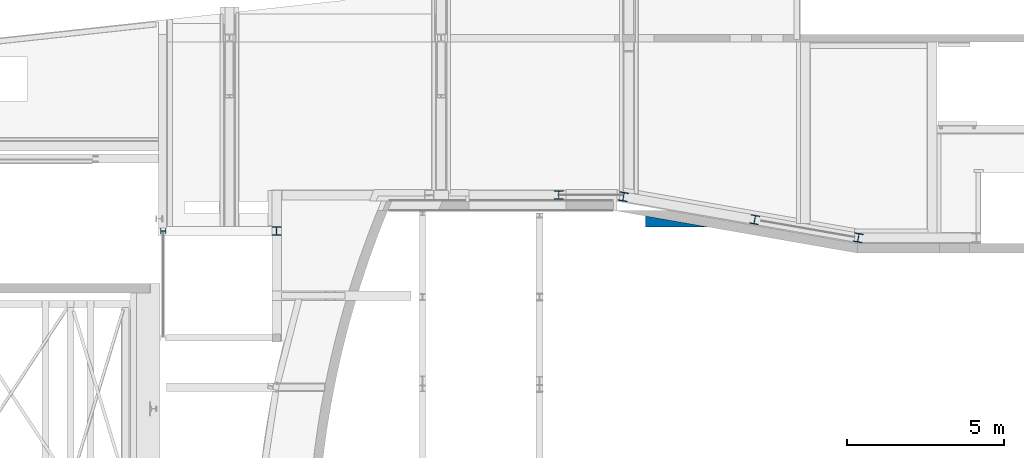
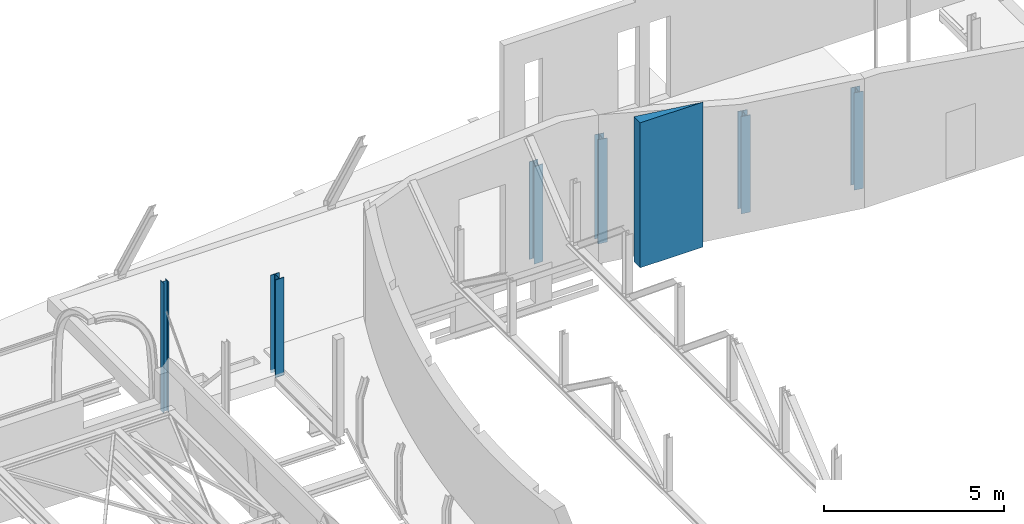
# One storey, part 5 of 38: 7 columns.
"""IFC2X3 building model written with IfcOpenShell, lengths in millimetres."""

from ifc_helpers import new_model, entity, si_unit, converted_unit, derived_unit, direction, frame, frame_2d, origin, place, context, subcontext, project, spatial, polyline, circle_curve, parameter, trimmed, segment, composite_curve, i_section, outline, extrude, source, transform, mapped, material, type_object, type_shapes, element, save


model = new_model("IFC2X3")

# Units and contexts
model_context = context("Model", 3, precision=0.01, world=origin(), true_north=direction((6.12303176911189e-17, 1.0)))
body_context = subcontext(model_context, "Body", "Model", "MODEL_VIEW")
ifc_project = project(units=[si_unit("LENGTHUNIT", "METRE", prefix="MILLI"), si_unit("AREAUNIT", "SQUARE_METRE", prefix="MILLI"), si_unit("VOLUMEUNIT", "CUBIC_METRE"), converted_unit("PLANEANGLEUNIT", "DEGREE", entity("IfcRatioMeasure", 0.0174532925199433), si_unit("PLANEANGLEUNIT", "RADIAN"), dimensions=[0, 0, 0, 0, 0, 0, 0]), si_unit("MASSUNIT", "GRAM", prefix="KILO"), derived_unit("MASSDENSITYUNIT", [(si_unit("MASSUNIT", "GRAM", prefix="KILO"), 1), (si_unit("LENGTHUNIT", "METRE"), -3)]), derived_unit("MOMENTOFINERTIAUNIT", [(si_unit("LENGTHUNIT", "METRE"), 4)]), si_unit("TIMEUNIT", "SECOND"), si_unit("FREQUENCYUNIT", "HERTZ"), si_unit("THERMODYNAMICTEMPERATUREUNIT", "DEGREE_CELSIUS"), derived_unit("THERMALTRANSMITTANCEUNIT", [(si_unit("MASSUNIT", "GRAM", prefix="KILO"), 1), (si_unit("THERMODYNAMICTEMPERATUREUNIT", "KELVIN"), -1), (si_unit("TIMEUNIT", "SECOND"), -3)]), derived_unit("VOLUMETRICFLOWRATEUNIT", [(si_unit("LENGTHUNIT", "METRE"), 3), (si_unit("TIMEUNIT", "SECOND"), -1)]), si_unit("ELECTRICCURRENTUNIT", "AMPERE"), si_unit("ELECTRICVOLTAGEUNIT", "VOLT"), si_unit("POWERUNIT", "WATT"), si_unit("FORCEUNIT", "NEWTON", prefix="KILO"), si_unit("ILLUMINANCEUNIT", "LUX"), si_unit("LUMINOUSFLUXUNIT", "LUMEN"), si_unit("LUMINOUSINTENSITYUNIT", "CANDELA"), derived_unit("USERDEFINED", [(si_unit("MASSUNIT", "GRAM", prefix="KILO"), -1), (si_unit("LENGTHUNIT", "METRE"), -2), (si_unit("TIMEUNIT", "SECOND"), 3), (si_unit("LUMINOUSFLUXUNIT", "LUMEN"), 1)]), derived_unit("LINEARVELOCITYUNIT", [(si_unit("LENGTHUNIT", "METRE"), 1), (si_unit("TIMEUNIT", "SECOND"), -1)]), si_unit("PRESSUREUNIT", "PASCAL"), derived_unit("USERDEFINED", [(si_unit("LENGTHUNIT", "METRE"), -2), (si_unit("MASSUNIT", "GRAM", prefix="KILO"), 1), (si_unit("TIMEUNIT", "SECOND"), -2)]), derived_unit("LINEARFORCEUNIT", [(si_unit("MASSUNIT", "GRAM", prefix="KILO"), 1), (si_unit("LENGTHUNIT", "METRE"), 1), (si_unit("TIMEUNIT", "SECOND"), -2), (si_unit("LENGTHUNIT", "METRE"), -1)]), derived_unit("PLANARFORCEUNIT", [(si_unit("MASSUNIT", "GRAM", prefix="KILO"), 1), (si_unit("LENGTHUNIT", "METRE"), 1), (si_unit("TIMEUNIT", "SECOND"), -2), (si_unit("LENGTHUNIT", "METRE"), -2)])], contexts=[model_context])

# Site, building, storey
site_placement = place(None, origin())
site = spatial("IfcSite", under=ifc_project, at=site_placement, Name="Theater aan de Parade", CompositionType="ELEMENT")
building_placement = place(site_placement, origin())
building = spatial("IfcBuilding", under=site, at=building_placement, Name="Theater aan de Parade", CompositionType="ELEMENT")
storey_placement = place(building_placement, frame((0.0, 0.0, 12480.0)))
storey = spatial("IfcBuildingStorey", under=building, at=storey_placement, Name="03 derde verdieping", CompositionType="ELEMENT", Elevation=12480.0)

# Columns
ifc_material_1 = material(Name="00_PBT_MAT_beton t.p.g.")
column_type_1 = type_object("IfcColumnType", Name="28_PBT_SC_beton_opdikking wand:opdikking wand grote zaal_bestaand", PredefinedType="COLUMN", material=ifc_material_1)
shared_shape_1 = source(origin(), body_context, "Body", "SweptSolid", [
    extrude(outline(polyline([(-235.366666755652, -672.476190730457), (117.683333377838, -672.476190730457), (117.683333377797, 1344.95238146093), (-235.366666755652, -672.476190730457)])), frame((53382.4761907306, 43492.6333332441, 11910.0), z_axis=(0.0, 0.0, 1.0), x_axis=(0.0, -1.0, 0.0)), (0.0, 0.0, 1.0), 4930.00000000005),
])
type_shapes(column_type_1, [shared_shape_1])
column_1_placement = place(storey_placement, frame((0.0, 0.0, -12480.0)))
element("IfcColumn", 1, at=column_1_placement, inside=storey, type_object=column_type_1, material=ifc_material_1, Name="28_PBT_SC_beton_opdikking wand:opdikking wand grote zaal_bestaand", ObjectType="28_PBT_SC_beton_opdikking wand:opdikking wand grote zaal_bestaand", context=body_context, shape_type="MappedRepresentation", body=[
    mapped(shared_shape_1, transform((0.0, 0.0, 0.0), scale=1.0)),
])
ifc_material_2 = material(Name="00_PBT_MAT_staal_S355")
column_type_2 = type_object("IfcColumnType", Name="28_PBT_SC_staal_H-profiel:S355_HE280B", PredefinedType="COLUMN", material=ifc_material_2)
shared_shape_2 = source(origin(), body_context, "Body", "SweptSolid", [
    extrude(outline(composite_curve([segment(polyline([(122.0, -140.0), (140.0, -140.0)]), True, "CONTINUOUS"), segment(polyline([(140.0, -140.0), (140.0, 140.0)]), True, "CONTINUOUS"), segment(polyline([(140.0, 140.0), (122.0, 140.0)]), True, "CONTINUOUS"), segment(polyline([(122.0, 140.0), (122.0, 29.2499999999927)]), True, "CONTINUOUS"), segment(trimmed(circle_curve(frame_2d((98.0, 29.2500000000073), x_axis=(1.0, 0.0)), 24.0000000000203), [parameter(270.000000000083)], [parameter(0.0)], True, "PARAMETER"), False, "CONTINUOUS"), segment(polyline([(98.0, 5.24999999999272), (-98.0, 5.24999999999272)]), True, "CONTINUOUS"), segment(trimmed(circle_curve(frame_2d((-98.0, 29.2500000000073), x_axis=(0.0, -1.0)), 24.0000000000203), [parameter(270.000000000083)], [parameter(0.0)], True, "PARAMETER"), False, "CONTINUOUS"), segment(polyline([(-122.0, 29.25), (-122.0, 140.0)]), True, "CONTINUOUS"), segment(polyline([(-122.0, 140.0), (-140.0, 140.0)]), True, "CONTINUOUS"), segment(polyline([(-140.0, 140.0), (-140.0, -140.0)]), True, "CONTINUOUS"), segment(polyline([(-140.0, -140.0), (-122.0, -140.0)]), True, "CONTINUOUS"), segment(polyline([(-122.0, -140.0), (-122.0, -29.2500000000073)]), True, "CONTINUOUS"), segment(trimmed(circle_curve(frame_2d((-98.0, -29.2500000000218), x_axis=(-1.0, 0.0)), 24.0000000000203), [parameter(270.000000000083)], [parameter(0.0)], True, "PARAMETER"), False, "CONTINUOUS"), segment(polyline([(-98.0, -5.25), (98.0, -5.25)]), True, "CONTINUOUS"), segment(trimmed(circle_curve(frame_2d((98.0, -29.2500000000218), x_axis=(0.0, 1.0)), 24.0000000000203), [parameter(270.000000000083)], [parameter(0.0)], True, "PARAMETER"), False, "CONTINUOUS"), segment(polyline([(122.0, -29.2500000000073), (122.0, -140.0)]), True, "CONTINUOUS")], self_intersect=False)), frame((49946.4713059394, 44395.0, 12515.0), z_axis=(0.0, 0.0, 1.0), x_axis=(0.0, -1.0, 0.0)), (0.0, 0.0, 1.0), 3319.99999999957),
])
type_shapes(column_type_2, [shared_shape_2])
column_2_placement = place(storey_placement, frame((0.0, 0.0, -12480.0)))
element("IfcColumn", 2, at=column_2_placement, inside=storey, type_object=column_type_2, material=ifc_material_2, Name="28_PBT_SC_staal_H-profiel:S355_HE280B", ObjectType="28_PBT_SC_staal_H-profiel:S355_HE280B", context=body_context, shape_type="MappedRepresentation", body=[
    mapped(shared_shape_2, transform((0.0, 0.0, 0.0), scale=1.0)),
])
column_type_3 = type_object("IfcColumnType", Name="28_PBT_SC_staal_H-profiel:S355_HE280B", PredefinedType="COLUMN", material=ifc_material_2)
shared_shape_3 = source(origin(), body_context, "Body", "SweptSolid", [
    extrude(outline(composite_curve([segment(polyline([(122.0, -140.0), (140.0, -140.0)]), True, "CONTINUOUS"), segment(polyline([(140.0, -140.0), (140.0, 140.0)]), True, "CONTINUOUS"), segment(polyline([(140.0, 140.0), (122.0, 140.0)]), True, "CONTINUOUS"), segment(polyline([(122.0, 140.0), (122.0, 29.2500000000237)]), True, "CONTINUOUS"), segment(trimmed(circle_curve(frame_2d((98.0, 29.2500000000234), x_axis=(1.0, 0.0)), 24.000000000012), [parameter(270.000000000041)], [parameter(0.0)], True, "PARAMETER"), False, "CONTINUOUS"), segment(polyline([(98.0, 5.25000000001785), (-98.0, 5.25000000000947)]), True, "CONTINUOUS"), segment(trimmed(circle_curve(frame_2d((-98.0, 29.2500000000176), x_axis=(0.0, -1.0)), 24.000000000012), [parameter(270.000000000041)], [parameter(0.0)], True, "PARAMETER"), False, "CONTINUOUS"), segment(polyline([(-122.0, 29.2500000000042), (-122.0, 140.0)]), True, "CONTINUOUS"), segment(polyline([(-122.0, 140.0), (-140.0, 140.0)]), True, "CONTINUOUS"), segment(polyline([(-140.0, 140.0), (-140.0, -140.0)]), True, "CONTINUOUS"), segment(polyline([(-140.0, -140.0), (-122.0, -140.0)]), True, "CONTINUOUS"), segment(polyline([(-122.0, -140.0), (-122.0, -29.2500000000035)]), True, "CONTINUOUS"), segment(trimmed(circle_curve(frame_2d((-98.0, -29.2500000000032), x_axis=(-1.0, 0.0)), 24.000000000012), [parameter(270.000000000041)], [parameter(0.0)], True, "PARAMETER"), False, "CONTINUOUS"), segment(polyline([(-98.0, -5.24999999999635), (98.0, -5.24999999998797)]), True, "CONTINUOUS"), segment(trimmed(circle_curve(frame_2d((98.0, -29.2499999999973), x_axis=(0.0, 1.0)), 24.000000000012), [parameter(270.000000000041)], [parameter(0.0)], True, "PARAMETER"), False, "CONTINUOUS"), segment(polyline([(122.0, -29.249999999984), (122.0, -140.0)]), True, "CONTINUOUS")], self_intersect=False)), frame((56185.6044607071, 43612.1397766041, 12505.0), z_axis=(0.0, 0.0, 1.0), x_axis=(0.172380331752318, 0.985030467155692, 0.0)), (0.0, 0.0, 1.0), 3309.99999999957),
])
type_shapes(column_type_3, [shared_shape_3])
column_3_placement = place(storey_placement, frame((0.0, 0.0, -12480.0)))
element("IfcColumn", 3, at=column_3_placement, inside=storey, type_object=column_type_3, material=ifc_material_2, Name="28_PBT_SC_staal_H-profiel:S355_HE280B", ObjectType="28_PBT_SC_staal_H-profiel:S355_HE280B", context=body_context, shape_type="MappedRepresentation", body=[
    mapped(shared_shape_3, transform((0.0, 0.0, 0.0), scale=1.0)),
])
column_type_4 = type_object("IfcColumnType", Name="28_PBT_SC_staal_H-profiel:S355_HE280B", PredefinedType="COLUMN", material=ifc_material_2)
shared_shape_4 = source(origin(), body_context, "Body", "SweptSolid", [
    extrude(outline(composite_curve([segment(polyline([(122.0, -140.0), (140.0, -140.0)]), True, "CONTINUOUS"), segment(polyline([(140.0, -140.0), (140.0, 140.0)]), True, "CONTINUOUS"), segment(polyline([(140.0, 140.0), (122.0, 140.0)]), True, "CONTINUOUS"), segment(polyline([(122.0, 140.0), (122.0, 29.2500000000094)]), True, "CONTINUOUS"), segment(trimmed(circle_curve(frame_2d((98.0, 29.2500000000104), x_axis=(1.0, 0.0)), 24.000000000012), [parameter(270.000000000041)], [parameter(0.0)], True, "PARAMETER"), False, "CONTINUOUS"), segment(polyline([(98.0, 5.25000000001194), (-98.0, 5.24999999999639)]), True, "CONTINUOUS"), segment(trimmed(circle_curve(frame_2d((-98.0, 29.2500000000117), x_axis=(0.0, -1.0)), 24.000000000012), [parameter(270.000000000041)], [parameter(0.0)], True, "PARAMETER"), False, "CONTINUOUS"), segment(polyline([(-122.0, 29.2499999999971), (-122.0, 140.0)]), True, "CONTINUOUS"), segment(polyline([(-122.0, 140.0), (-140.0, 140.0)]), True, "CONTINUOUS"), segment(polyline([(-140.0, 140.0), (-140.0, -140.0)]), True, "CONTINUOUS"), segment(polyline([(-140.0, -140.0), (-122.0, -140.0)]), True, "CONTINUOUS"), segment(polyline([(-122.0, -140.0), (-122.0, -29.2500000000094)]), True, "CONTINUOUS"), segment(trimmed(circle_curve(frame_2d((-98.0, -29.2500000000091), x_axis=(-1.0, 0.0)), 24.000000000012), [parameter(270.000000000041)], [parameter(0.0)], True, "PARAMETER"), False, "CONTINUOUS"), segment(polyline([(-98.0, -5.25000000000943), (98.0, -5.24999999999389)]), True, "CONTINUOUS"), segment(trimmed(circle_curve(frame_2d((98.0, -29.2500000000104), x_axis=(0.0, 1.0)), 24.000000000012), [parameter(270.000000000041)], [parameter(0.0)], True, "PARAMETER"), False, "CONTINUOUS"), segment(polyline([(122.0, -29.2499999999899), (122.0, -140.0)]), True, "CONTINUOUS")], self_intersect=False)), frame((59483.5460413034, 43035.0, 12505.0), z_axis=(0.0, 0.0, 1.0), x_axis=(0.172380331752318, 0.985030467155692, 0.0)), (0.0, 0.0, 1.0), 3309.99999999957),
])
type_shapes(column_type_4, [shared_shape_4])
column_4_placement = place(storey_placement, frame((0.0, 0.0, -12480.0)))
element("IfcColumn", 4, at=column_4_placement, inside=storey, type_object=column_type_4, material=ifc_material_2, Name="28_PBT_SC_staal_H-profiel:S355_HE280B", ObjectType="28_PBT_SC_staal_H-profiel:S355_HE280B", context=body_context, shape_type="MappedRepresentation", body=[
    mapped(shared_shape_4, transform((0.0, 0.0, 0.0), scale=1.0)),
])
column_type_5 = type_object("IfcColumnType", Name="28_PBT_SC_staal_H-profiel:S355_HE280B", PredefinedType="COLUMN", material=ifc_material_2)
shared_shape_5 = source(origin(), body_context, "Body", "SweptSolid", [
    extrude(outline(composite_curve([segment(polyline([(122.0, -140.0), (140.0, -140.0)]), True, "CONTINUOUS"), segment(polyline([(140.0, -140.0), (140.0, 140.0)]), True, "CONTINUOUS"), segment(polyline([(140.0, 140.0), (122.0, 140.0)]), True, "CONTINUOUS"), segment(polyline([(122.0, 140.0), (122.0, 29.2500000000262)]), True, "CONTINUOUS"), segment(trimmed(circle_curve(frame_2d((98.0, 29.250000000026), x_axis=(1.0, 0.0)), 24.000000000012), [parameter(270.000000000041)], [parameter(0.0)], True, "PARAMETER"), False, "CONTINUOUS"), segment(polyline([(98.0, 5.25000000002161), (-98.0, 5.25000000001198)]), True, "CONTINUOUS"), segment(trimmed(circle_curve(frame_2d((-98.0, 29.2500000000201), x_axis=(0.0, -1.0)), 24.000000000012), [parameter(270.000000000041)], [parameter(0.0)], True, "PARAMETER"), False, "CONTINUOUS"), segment(polyline([(-122.0, 29.2500000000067), (-122.0, 140.0)]), True, "CONTINUOUS"), segment(polyline([(-122.0, 140.0), (-140.0, 140.0)]), True, "CONTINUOUS"), segment(polyline([(-140.0, 140.0), (-140.0, -140.0)]), True, "CONTINUOUS"), segment(polyline([(-140.0, -140.0), (-122.0, -140.0)]), True, "CONTINUOUS"), segment(polyline([(-122.0, -140.0), (-122.0, -29.250000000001)]), True, "CONTINUOUS"), segment(trimmed(circle_curve(frame_2d((-98.0, -29.2500000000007), x_axis=(-1.0, 0.0)), 24.000000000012), [parameter(270.000000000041)], [parameter(0.0)], True, "PARAMETER"), False, "CONTINUOUS"), segment(polyline([(-98.0, -5.24999999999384), (98.0, -5.24999999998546)]), True, "CONTINUOUS"), segment(trimmed(circle_curve(frame_2d((98.0, -29.2499999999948), x_axis=(0.0, 1.0)), 24.000000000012), [parameter(270.000000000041)], [parameter(0.0)], True, "PARAMETER"), False, "CONTINUOUS"), segment(polyline([(122.0, -29.2499999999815), (122.0, -140.0)]), True, "CONTINUOUS")], self_intersect=False)), frame((52005.6821149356, 44343.6261871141, 12505.0), z_axis=(0.0, 0.0, 1.0), x_axis=(0.172380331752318, 0.985030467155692, 0.0)), (0.0, 0.0, 1.0), 3539.99999999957),
])
type_shapes(column_type_5, [shared_shape_5])
column_5_placement = place(storey_placement, frame((0.0, 0.0, -12480.0)))
element("IfcColumn", 5, at=column_5_placement, inside=storey, type_object=column_type_5, material=ifc_material_2, Name="28_PBT_SC_staal_H-profiel:S355_HE280B", ObjectType="28_PBT_SC_staal_H-profiel:S355_HE280B", context=body_context, shape_type="MappedRepresentation", body=[
    mapped(shared_shape_5, transform((0.0, 0.0, 0.0), scale=1.0)),
])
column_type_6 = type_object("IfcColumnType", Name="28_PBT_SC_staal_H-profiel:S355_HE280B", PredefinedType="COLUMN", material=ifc_material_2)
shared_shape_6 = source(origin(), body_context, "Body", "SweptSolid", [
    extrude(i_section(OverallWidth=279.999999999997, OverallDepth=279.999999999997, WebThickness=10.4999999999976, FlangeThickness=17.9999999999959, FilletRadius=24.0000000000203, at=frame_2d((-1.29887212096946e-11, -4.32009983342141e-12), x_axis=(0.0, 1.0))), frame((40963.8581275, 43250.0, 12490.0), z_axis=(0.0, 0.0, 1.0), x_axis=(0.0, -1.0, 0.0)), (0.0, 0.0, 1.0), 3328.0),
])
type_shapes(column_type_6, [shared_shape_6])
column_6_placement = place(storey_placement, frame((0.0, 0.0, -12480.0)))
element("IfcColumn", 6, at=column_6_placement, inside=storey, type_object=column_type_6, material=ifc_material_2, Name="28_PBT_SC_staal_H-profiel:S355_HE280B", ObjectType="28_PBT_SC_staal_H-profiel:S355_HE280B", context=body_context, shape_type="MappedRepresentation", body=[
    mapped(shared_shape_6, transform((0.0, 0.0, 0.0), scale=1.0)),
])
column_type_7 = type_object("IfcColumnType", Name="28_PBT_SC_staal_H-profiel:S355_HE180A", PredefinedType="COLUMN", material=ifc_material_2)
shared_shape_7 = source(origin(), body_context, "Body", "SweptSolid", [
    extrude(i_section(OverallWidth=180.000000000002, OverallDepth=171.000000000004, WebThickness=5.99999999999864, FlangeThickness=9.49999999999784, FilletRadius=14.9999999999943, at=frame_2d((4.33431068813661e-12, 2.16715534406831e-12), x_axis=(1.0, 0.0))), frame((37353.858130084, 43250.0, 12490.0), z_axis=(0.0, 0.0, 1.0), x_axis=(0.0, -1.0, 0.0)), (0.0, 0.0, 1.0), 4428.0),
])
type_shapes(column_type_7, [shared_shape_7])
column_7_placement = place(storey_placement, frame((0.0, 0.0, -12480.0)))
element("IfcColumn", 7, at=column_7_placement, inside=storey, type_object=column_type_7, material=ifc_material_2, Name="28_PBT_SC_staal_H-profiel:S355_HE180A", ObjectType="28_PBT_SC_staal_H-profiel:S355_HE180A", context=body_context, shape_type="MappedRepresentation", body=[
    mapped(shared_shape_7, transform((0.0, 0.0, 0.0), scale=1.0)),
])

save(model, "model.ifc")
